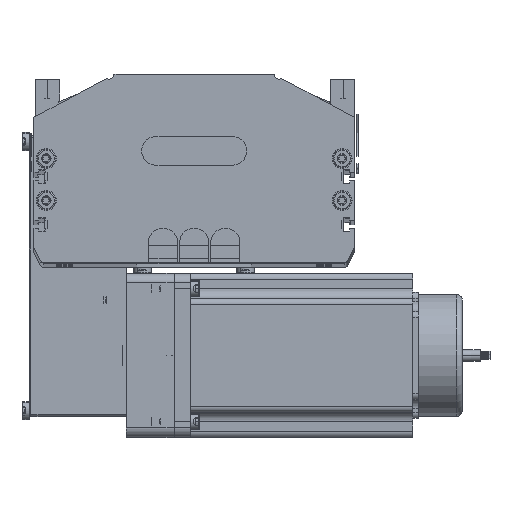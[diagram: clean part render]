
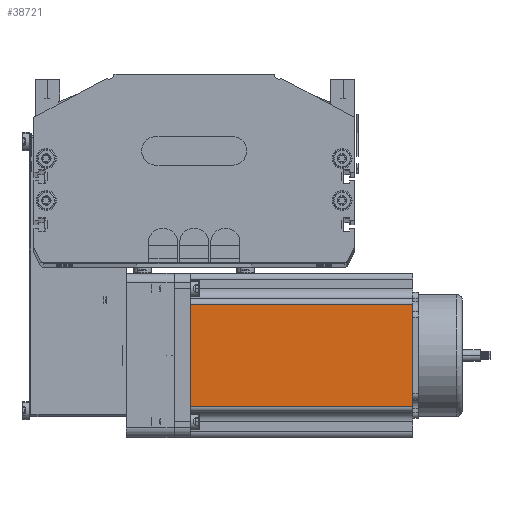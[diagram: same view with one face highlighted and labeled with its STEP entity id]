
A CAD part, top view. The second image highlights one B-rep face of the part: STEP entity #38721.
In plain terms, the highlighted planar face has unit normal (0, 0, 1) as drawn and (0, -1, 0) by its records, which use the part's own axes.
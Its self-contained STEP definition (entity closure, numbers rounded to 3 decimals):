
#38641 = ORIENTED_EDGE ( 'NONE', *, *, #38722, .T. ) ;
#38643 = EDGE_CURVE ( 'NONE', #38732, #38737, #75055, .T. ) ;
#38646 = ORIENTED_EDGE ( 'NONE', *, *, #38643, .F. ) ;
#38648 = EDGE_CURVE ( 'NONE', #38732, #38727, #75049, .T. ) ;
#38689 = EDGE_LOOP ( 'NONE', ( #38733, #38641, #38646, #38725 ) ) ;
#38721 = ADVANCED_FACE ( 'NONE', ( #75071 ), #75193, .F. ) ;
#38722 = EDGE_CURVE ( 'NONE', #38726, #38737, #75162, .T. ) ;
#38725 = ORIENTED_EDGE ( 'NONE', *, *, #38648, .T. ) ;
#38726 = VERTEX_POINT ( 'NONE', #75157 ) ;
#38727 = VERTEX_POINT ( 'NONE', #75177 ) ;
#38732 = VERTEX_POINT ( 'NONE', #75149 ) ;
#38733 = ORIENTED_EDGE ( 'NONE', *, *, #38734, .T. ) ;
#38734 = EDGE_CURVE ( 'NONE', #38727, #38726, #75119, .T. ) ;
#38737 = VERTEX_POINT ( 'NONE', #75152 ) ;
#75049 = LINE ( 'NONE', #75237, #75235 ) ;
#75054 = CARTESIAN_POINT ( 'NONE',  ( 0., 0., 116.5 ) ) ;
#75055 = LINE ( 'NONE', #75054, #75187 ) ;
#75071 = FACE_OUTER_BOUND ( 'NONE', #38689, .T. ) ;
#75113 = DIRECTION ( 'NONE',  ( 1., 0., 0. ) ) ;
#75115 = VECTOR ( 'NONE', #75113, 1000. ) ;
#75117 = CARTESIAN_POINT ( 'NONE',  ( 0., 0., 0. ) ) ;
#75119 = LINE ( 'NONE', #75117, #75115 ) ;
#75149 = CARTESIAN_POINT ( 'NONE',  ( 16.16, 0., 116.5 ) ) ;
#75152 = CARTESIAN_POINT ( 'NONE',  ( 69.74, 0., 116.5 ) ) ;
#75153 = DIRECTION ( 'NONE',  ( 0., 0., 1. ) ) ;
#75155 = VECTOR ( 'NONE', #75153, 1000. ) ;
#75157 = CARTESIAN_POINT ( 'NONE',  ( 69.74, 0., 0. ) ) ;
#75159 = DIRECTION ( 'NONE',  ( 0., 0., 1. ) ) ;
#75161 = CARTESIAN_POINT ( 'NONE',  ( 69.74, 0., 116.5 ) ) ;
#75162 = LINE ( 'NONE', #75161, #75155 ) ;
#75166 = AXIS2_PLACEMENT_3D ( 'NONE', #75173, #75178, #75159 ) ;
#75173 = CARTESIAN_POINT ( 'NONE',  ( 0., 0., 116.5 ) ) ;
#75177 = CARTESIAN_POINT ( 'NONE',  ( 16.16, 0., 0. ) ) ;
#75178 = DIRECTION ( 'NONE',  ( 0., 1., 0. ) ) ;
#75186 = DIRECTION ( 'NONE',  ( 1., 0., 0. ) ) ;
#75187 = VECTOR ( 'NONE', #75186, 1000. ) ;
#75193 = PLANE ( 'NONE',  #75166 ) ;
#75235 = VECTOR ( 'NONE', #75236, 1000. ) ;
#75236 = DIRECTION ( 'NONE',  ( 0., 0., -1. ) ) ;
#75237 = CARTESIAN_POINT ( 'NONE',  ( 16.16, 0., 116.5 ) ) ;
